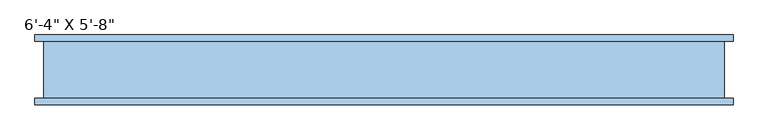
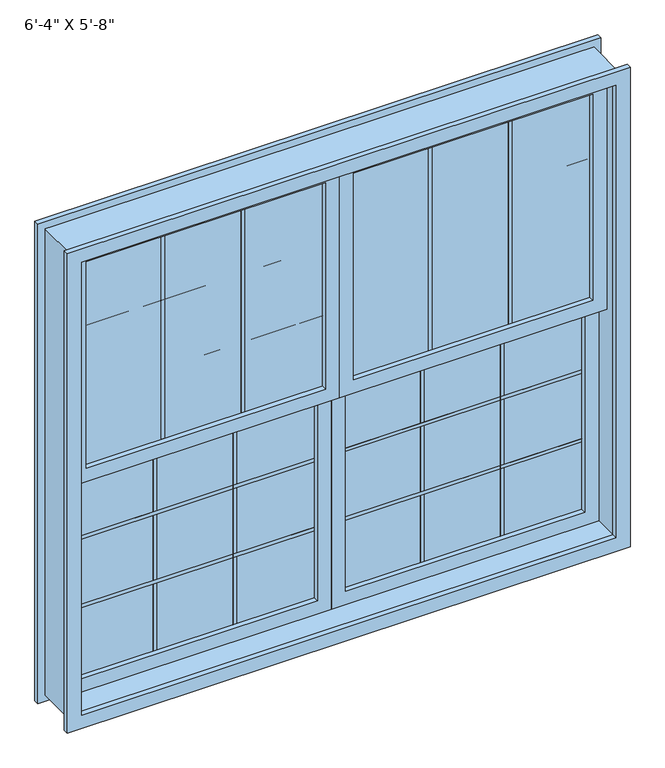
"""IFC4 building model written with IfcOpenShell, lengths in millimetres: window geometry."""

from ifc_helpers import new_model, si_unit, frame, origin, place, context, project, spatial, polyline, outline, extrude, source, transform, mapped, element, save


def window_02a85cad(model_context):
    return source(origin(), model_context, "Body", "SweptSolid", [
        extrude(outline(polyline([(2540.0, 0.0), (1651.0, 0.0), (1651.0, 965.2), (2540.0, 965.2), (2540.0, 0.0)]), holes=[polyline([(2489.2, 50.8), (2489.2, 914.4), (1701.8, 914.4), (1701.8, 50.8), (2489.2, 50.8)])]), frame((0.0, -44.45, 0.0), z_axis=(0.0, 1.0, 0.0), x_axis=(0.0, 0.0, 1.0)), (0.0, 0.0, 1.0), 50.8),
        extrude(outline(polyline([(345.0166667, -12.7), (345.0166667, -25.4), (332.3166667, -25.4), (332.3166667, -12.7), (345.0166667, -12.7)])), frame((0.0, 0.0, 1701.8), z_axis=(0.0, 0.0, 1.0), x_axis=(1.0, 0.0, 0.0)), (0.0, 0.0, 1.0), 787.4),
        extrude(outline(polyline([(632.8833333, -12.7), (632.8833333, -25.4), (620.1833333, -25.4), (620.1833333, -12.7), (632.8833333, -12.7)])), frame((0.0, 0.0, 1701.8), z_axis=(0.0, 0.0, 1.0), x_axis=(1.0, 0.0, 0.0)), (0.0, 0.0, 1.0), 787.4),
        extrude(outline(polyline([(914.4, -12.7), (914.4, -25.4), (50.8, -25.4), (50.8, -12.7), (914.4, -12.7)])), frame((0.0, 0.0, 1701.8), z_axis=(0.0, 0.0, 1.0), x_axis=(1.0, 0.0, 0.0)), (0.0, 0.0, 1.0), 787.4),
        extrude(outline(polyline([(914.4, 38.1), (914.4, 25.4), (50.8, 25.4), (50.8, 38.1), (914.4, 38.1)])), frame((0.0, 0.0, 1382.1833333), z_axis=(0.0, 0.0, 1.0), x_axis=(1.0, 0.0, 0.0)), (0.0, 0.0, 1.0), 12.7),
        extrude(outline(polyline([(914.4, 38.1), (914.4, 25.4), (50.8, 25.4), (50.8, 38.1), (914.4, 38.1)])), frame((0.0, 0.0, 1119.7166667), z_axis=(0.0, 0.0, 1.0), x_axis=(1.0, 0.0, 0.0)), (0.0, 0.0, 1.0), 12.7),
        extrude(outline(polyline([(345.0166667, 38.1), (345.0166667, 25.4), (332.3166667, 25.4), (332.3166667, 38.1), (345.0166667, 38.1)])), frame((0.0, 0.0, 863.6), z_axis=(0.0, 0.0, 1.0), x_axis=(1.0, 0.0, 0.0)), (0.0, 0.0, 1.0), 787.4),
        extrude(outline(polyline([(632.8833333, 38.1), (632.8833333, 25.4), (620.1833333, 25.4), (620.1833333, 38.1), (632.8833333, 38.1)])), frame((0.0, 0.0, 863.6), z_axis=(0.0, 0.0, 1.0), x_axis=(1.0, 0.0, 0.0)), (0.0, 0.0, 1.0), 787.4),
        extrude(outline(polyline([(914.4, 38.1), (914.4, 25.4), (50.8, 25.4), (50.8, 38.1), (914.4, 38.1)])), frame((0.0, 0.0, 863.6), z_axis=(0.0, 0.0, 1.0), x_axis=(1.0, 0.0, 0.0)), (0.0, 0.0, 1.0), 787.4),
        extrude(outline(polyline([(1701.8, 965.2), (1701.8, 0.0), (812.8, 0.0), (812.8, 965.2), (1701.8, 965.2)]), holes=[polyline([(1651.0, 50.8), (1651.0, 914.4), (863.6, 914.4), (863.6, 50.8), (1651.0, 50.8)])]), frame((0.0, 6.35, 0.0), z_axis=(0.0, 1.0, 0.0), x_axis=(0.0, 0.0, 1.0)), (0.0, 0.0, 1.0), 50.8),
        extrude(outline(polyline([(914.4, -12.7), (914.4, -25.4), (50.8, -25.4), (50.8, -12.7), (914.4, -12.7)])), frame((0.0, 0.0, 2220.3833333), z_axis=(0.0, 0.0, 1.0), x_axis=(1.0, 0.0, 0.0)), (0.0, 0.0, 1.0), 12.7),
        extrude(outline(polyline([(914.4, -12.7), (914.4, -25.4), (50.8, -25.4), (50.8, -12.7), (914.4, -12.7)])), frame((0.0, 0.0, 1957.9166667), z_axis=(0.0, 0.0, 1.0), x_axis=(1.0, 0.0, 0.0)), (0.0, 0.0, 1.0), 12.7),
        extrude(outline(polyline([(2540.0, -965.2), (1651.0, -965.2), (1651.0, 0.0), (2540.0, 0.0), (2540.0, -965.2)]), holes=[polyline([(2489.2, -914.4), (2489.2, -50.8), (1701.8, -50.8), (1701.8, -914.4), (2489.2, -914.4)])]), frame((0.0, -44.45, 0.0), z_axis=(0.0, 1.0, 0.0), x_axis=(0.0, 0.0, 1.0)), (0.0, 0.0, 1.0), 50.8),
        extrude(outline(polyline([(-620.1833333, -12.7), (-620.1833333, -25.4), (-632.8833333, -25.4), (-632.8833333, -12.7), (-620.1833333, -12.7)])), frame((0.0, 0.0, 1701.8), z_axis=(0.0, 0.0, 1.0), x_axis=(1.0, 0.0, 0.0)), (0.0, 0.0, 1.0), 787.4),
        extrude(outline(polyline([(-332.3166667, -12.7), (-332.3166667, -25.4), (-345.0166667, -25.4), (-345.0166667, -12.7), (-332.3166667, -12.7)])), frame((0.0, 0.0, 1701.8), z_axis=(0.0, 0.0, 1.0), x_axis=(1.0, 0.0, 0.0)), (0.0, 0.0, 1.0), 787.4),
        extrude(outline(polyline([(-50.8, -12.7), (-50.8, -25.4), (-914.4, -25.4), (-914.4, -12.7), (-50.8, -12.7)])), frame((0.0, 0.0, 1701.8), z_axis=(0.0, 0.0, 1.0), x_axis=(1.0, 0.0, 0.0)), (0.0, 0.0, 1.0), 787.4),
        extrude(outline(polyline([(-50.8, 38.1), (-50.8, 25.4), (-914.4, 25.4), (-914.4, 38.1), (-50.8, 38.1)])), frame((0.0, 0.0, 1382.1833333), z_axis=(0.0, 0.0, 1.0), x_axis=(1.0, 0.0, 0.0)), (0.0, 0.0, 1.0), 12.7),
        extrude(outline(polyline([(-50.8, 38.1), (-50.8, 25.4), (-914.4, 25.4), (-914.4, 38.1), (-50.8, 38.1)])), frame((0.0, 0.0, 1119.7166667), z_axis=(0.0, 0.0, 1.0), x_axis=(1.0, 0.0, 0.0)), (0.0, 0.0, 1.0), 12.7),
        extrude(outline(polyline([(-620.1833333, 38.1), (-620.1833333, 25.4), (-632.8833333, 25.4), (-632.8833333, 38.1), (-620.1833333, 38.1)])), frame((0.0, 0.0, 863.6), z_axis=(0.0, 0.0, 1.0), x_axis=(1.0, 0.0, 0.0)), (0.0, 0.0, 1.0), 787.4),
        extrude(outline(polyline([(-332.3166667, 38.1), (-332.3166667, 25.4), (-345.0166667, 25.4), (-345.0166667, 38.1), (-332.3166667, 38.1)])), frame((0.0, 0.0, 863.6), z_axis=(0.0, 0.0, 1.0), x_axis=(1.0, 0.0, 0.0)), (0.0, 0.0, 1.0), 787.4),
        extrude(outline(polyline([(-50.8, 38.1), (-50.8, 25.4), (-914.4, 25.4), (-914.4, 38.1), (-50.8, 38.1)])), frame((0.0, 0.0, 863.6), z_axis=(0.0, 0.0, 1.0), x_axis=(1.0, 0.0, 0.0)), (0.0, 0.0, 1.0), 787.4),
        extrude(outline(polyline([(1701.8, 0.0), (1701.8, -965.2), (812.8, -965.2), (812.8, 0.0), (1701.8, 0.0)]), holes=[polyline([(1651.0, -914.4), (1651.0, -50.8), (863.6, -50.8), (863.6, -914.4), (1651.0, -914.4)])]), frame((0.0, 6.35, 0.0), z_axis=(0.0, 1.0, 0.0), x_axis=(0.0, 0.0, 1.0)), (0.0, 0.0, 1.0), 50.8),
        extrude(outline(polyline([(-50.8, -12.7), (-50.8, -25.4), (-914.4, -25.4), (-914.4, -12.7), (-50.8, -12.7)])), frame((0.0, 0.0, 2220.3833333), z_axis=(0.0, 0.0, 1.0), x_axis=(1.0, 0.0, 0.0)), (0.0, 0.0, 1.0), 12.7),
        extrude(outline(polyline([(-50.8, -12.7), (-50.8, -25.4), (-914.4, -25.4), (-914.4, -12.7), (-50.8, -12.7)])), frame((0.0, 0.0, 1957.9166667), z_axis=(0.0, 0.0, 1.0), x_axis=(1.0, 0.0, 0.0)), (0.0, 0.0, 1.0), 12.7),
        extrude(outline(polyline([(2590.8, -1016.0), (762.0, -1016.0), (762.0, 1016.0), (2590.8, 1016.0), (2590.8, -1016.0)]), holes=[polyline([(2540.0, -965.2), (2540.0, 965.2), (812.8, 965.2), (812.8, -965.2), (2540.0, -965.2)])]), frame((0.0, 82.55, 0.0), z_axis=(0.0, 1.0, 0.0), x_axis=(0.0, 0.0, 1.0)), (0.0, 0.0, 1.0), 19.05),
        extrude(outline(polyline([(2590.8, -1016.0), (762.0, -1016.0), (762.0, 1016.0), (2590.8, 1016.0), (2590.8, -1016.0)]), holes=[polyline([(2540.0, -965.2), (2540.0, 965.2), (812.8, 965.2), (812.8, -965.2), (2540.0, -965.2)])]), frame((0.0, -101.6, 0.0), z_axis=(0.0, 1.0, 0.0), x_axis=(0.0, 0.0, 1.0)), (0.0, 0.0, 1.0), 19.05),
        extrude(outline(polyline([(2565.4, 990.6), (2565.4, -990.6), (787.4, -990.6), (787.4, 990.6), (2565.4, 990.6)]), holes=[polyline([(2540.0, -965.2), (2540.0, 965.2), (812.8, 965.2), (812.8, -965.2), (2540.0, -965.2)])]), frame((0.0, -82.55, 0.0), z_axis=(0.0, 1.0, 0.0), x_axis=(0.0, 0.0, 1.0)), (0.0, 0.0, 1.0), 165.1),
    ])


if __name__ == "__main__":
    model = new_model("IFC4")
    model_context = context("Model", 3, world=origin())
    ifc_project = project(units=[si_unit("LENGTHUNIT", "METRE", prefix="MILLI")], contexts=[model_context])
    site = spatial("IfcSite", under=ifc_project)
    building = spatial("IfcBuilding", under=site)
    placement = place(None, origin())
    window_shape = window_02a85cad(model_context)
    element("IfcWindow", 1, ObjectType="C_Double Window Guilotine : 6'-4\" X 5'-8\"", at=placement, inside=building, context=model_context, shape_type="MappedRepresentation", body=[
        mapped(window_shape, transform((0.0, 0.0, 0.0), x_axis=(1.0, 0.0, 0.0), y_axis=(0.0, 1.0, 0.0), z_axis=(0.0, 0.0, 1.0))),
    ])
    save(model, "model.ifc")
